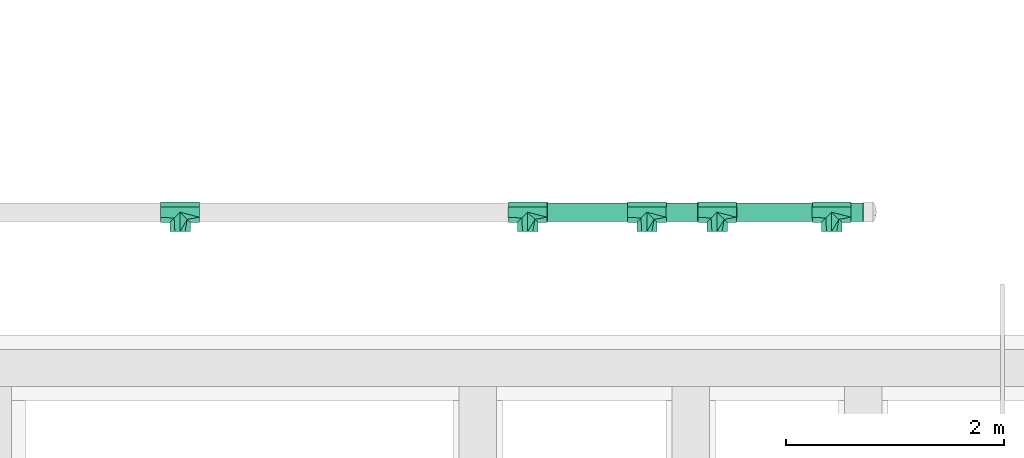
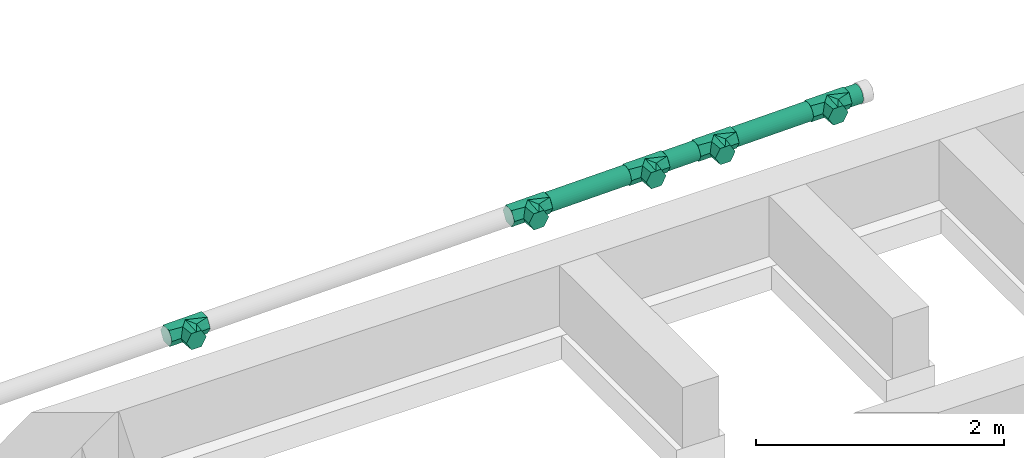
# One storey, part 6 of 8: 5 flow fittings, 4 flow segments.
"""IFC2X3 building model written with IfcOpenShell, lengths in millimetres."""

from ifc_helpers import new_model, entity, si_unit, converted_unit, derived_unit, direction, frame, frame_2d, origin, origin_2d_with_axis, place, context, subcontext, project, spatial, circle, extrude, faceted_brep, source, transform, mapped, type_object, type_shapes, element, save


model = new_model("IFC2X3")

# Units and contexts
model_context = context("Model", 3, precision=0.01, world=origin(), true_north=direction((6.12303176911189e-17, 1.0)))
body_context = subcontext(model_context, "Body", "Model", "MODEL_VIEW")
ifc_project = project(units=[si_unit("LENGTHUNIT", "METRE", prefix="MILLI"), si_unit("AREAUNIT", "SQUARE_METRE"), si_unit("VOLUMEUNIT", "CUBIC_METRE"), converted_unit("PLANEANGLEUNIT", "DEGREE", entity("IfcRatioMeasure", 0.0174532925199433), si_unit("PLANEANGLEUNIT", "RADIAN"), dimensions=[0, 0, 0, 0, 0, 0, 0]), si_unit("MASSUNIT", "GRAM", prefix="KILO"), derived_unit("MASSDENSITYUNIT", [(si_unit("MASSUNIT", "GRAM", prefix="KILO"), 1), (si_unit("LENGTHUNIT", "METRE"), -3)]), si_unit("TIMEUNIT", "SECOND"), si_unit("FREQUENCYUNIT", "HERTZ"), si_unit("THERMODYNAMICTEMPERATUREUNIT", "DEGREE_CELSIUS"), derived_unit("THERMALTRANSMITTANCEUNIT", [(si_unit("MASSUNIT", "GRAM", prefix="KILO"), 1), (si_unit("THERMODYNAMICTEMPERATUREUNIT", "KELVIN"), -1), (si_unit("TIMEUNIT", "SECOND"), -3)]), derived_unit("VOLUMETRICFLOWRATEUNIT", [(si_unit("LENGTHUNIT", "METRE"), 3), (si_unit("TIMEUNIT", "SECOND"), -1)]), si_unit("ELECTRICCURRENTUNIT", "AMPERE"), si_unit("ELECTRICVOLTAGEUNIT", "VOLT"), si_unit("POWERUNIT", "WATT"), si_unit("FORCEUNIT", "NEWTON", prefix="KILO"), si_unit("ILLUMINANCEUNIT", "LUX"), si_unit("LUMINOUSFLUXUNIT", "LUMEN"), si_unit("LUMINOUSINTENSITYUNIT", "CANDELA"), derived_unit("USERDEFINED", [(si_unit("MASSUNIT", "GRAM", prefix="KILO"), -1), (si_unit("LENGTHUNIT", "METRE"), -2), (si_unit("TIMEUNIT", "SECOND"), 3), (si_unit("LUMINOUSFLUXUNIT", "LUMEN"), 1)]), derived_unit("LINEARVELOCITYUNIT", [(si_unit("LENGTHUNIT", "METRE"), 1), (si_unit("TIMEUNIT", "SECOND"), -1)]), si_unit("PRESSUREUNIT", "PASCAL"), derived_unit("USERDEFINED", [(si_unit("LENGTHUNIT", "METRE"), -2), (si_unit("MASSUNIT", "GRAM", prefix="KILO"), 1), (si_unit("TIMEUNIT", "SECOND"), -2)])], contexts=[model_context])

# Site, building, storey
site_placement = place(None, origin())
site = spatial("IfcSite", under=ifc_project, at=site_placement, Name="Surface", CompositionType="ELEMENT")
building_placement = place(site_placement, origin())
building = spatial("IfcBuilding", under=site, at=building_placement, CompositionType="ELEMENT")
storey_placement = place(building_placement, frame((0.0, 0.0, -445.0)))
storey = spatial("IfcBuildingStorey", under=building, at=storey_placement, Name="T.O.F", CompositionType="ELEMENT", Elevation=-445.0)

# Flow segments
pipe_segment_type = type_object("IfcPipeSegmentType", Name="Pipe Types:PVC80", PredefinedType="NOTDEFINED")
flow_segment_1_placement = place(storey_placement, origin())
element("IfcFlowSegment", 1, at=flow_segment_1_placement, inside=storey, type_object=pipe_segment_type, Name="Pipe Types:PVC80", ObjectType="Pipe Types:PVC80", context=body_context, shape_type="SweptSolid", body=[
    extrude(circle(Radius=84.1375, at=frame_2d((0.0, -6.49590372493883e-14), x_axis=(1.0, 0.0))), frame((-1112.36480661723, 12081.3835294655, 19.2673565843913), z_axis=(0.999800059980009, 0.0, 0.0199960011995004), x_axis=(0.0, 1.0, 0.0)), (0.0, 0.0, 1.0), 110.282235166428),
])
flow_segment_2_placement = place(storey_placement, origin())
element("IfcFlowSegment", 2, at=flow_segment_2_placement, inside=storey, type_object=pipe_segment_type, Name="Pipe Types:PVC80", ObjectType="Pipe Types:PVC80", context=body_context, shape_type="SweptSolid", body=[
    extrude(circle(Radius=84.1375, at=origin_2d_with_axis()), frame((-3895.82853627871, 12081.3835294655, -36.4019180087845), z_axis=(0.999800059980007, 0.0, 0.0199960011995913), x_axis=(0.0, 1.0, 0.0)), (0.0, 0.0, 1.0), 735.760188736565),
])
flow_segment_3_placement = place(storey_placement, origin())
element("IfcFlowSegment", 3, at=flow_segment_3_placement, inside=storey, type_object=pipe_segment_type, Name="Pipe Types:PVC80", ObjectType="Pipe Types:PVC80", context=body_context, shape_type="SweptSolid", body=[
    extrude(circle(Radius=84.1375, at=frame_2d((0.0, -6.7665663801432e-14), x_axis=(1.0, 0.0))), frame((-2162.04139153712, 12081.3835294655, -1.72617511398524), z_axis=(0.999800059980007, 0.0, 0.0199960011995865), x_axis=(0.0, -1.0, 0.0)), (0.0, 0.0, 1.0), 694.286499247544),
])
flow_segment_4_placement = place(storey_placement, origin())
element("IfcFlowSegment", 4, at=flow_segment_4_placement, inside=storey, type_object=pipe_segment_type, Name="Pipe Types:PVC80", ObjectType="Pipe Types:PVC80", context=body_context, shape_type="SweptSolid", body=[
    extrude(circle(Radius=84.1375, at=frame_2d((0.0, -7.8492170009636e-14), x_axis=(1.0, 0.0))), frame((-2804.68655412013, 12081.3835294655, -14.5790783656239), z_axis=(0.999800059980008, 0.0, 0.0199960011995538), x_axis=(0.0, -1.0, 0.0)), (0.0, 0.0, 1.0), 287.173678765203),
])

# Flow fittings
pipe_fitting_type = type_object("IfcPipeFittingType", Name="Standard", PredefinedType="NOTDEFINED")
shared_shape = source(origin(), body_context, "Body", "Brep", [
    faceted_brep([(-177.799999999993, -69.6563250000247, -40.2160979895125), (-177.799999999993, -92.875100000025, 0.0), (-177.799999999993, -81.2657125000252, 20.1080489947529), (-177.799999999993, -69.6563250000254, 40.2160979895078), (-177.799999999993, -46.4375500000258, 80.4321959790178), (-177.799999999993, 0.0, 80.4321959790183), (-177.799999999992, 46.4375499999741, 80.4321959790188), (-177.799999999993, 69.6563249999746, 40.216097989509), (-177.799999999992, 92.8750999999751, 0.0), (-177.799999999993, 71.8936230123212, -36.3409841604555), (-177.799999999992, 46.4375499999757, -80.4321959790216), (-177.799999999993, 0.0, -80.432195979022), (-177.799999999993, -46.4375500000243, -80.4321959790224), (177.800000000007, 0.0, -80.432195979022), (177.800000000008, 46.4375499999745, -80.4321959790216), (177.800000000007, 69.6563249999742, -40.2160979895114), (177.800000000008, 92.8750999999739, 0.0), (177.800000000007, 69.6563249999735, 40.2160979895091), (177.800000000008, 46.437549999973, 80.4321959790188), (177.800000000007, 0.0, 80.4321959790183), (177.800000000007, -46.4375500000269, 80.4321959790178), (177.800000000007, -69.6563250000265, 40.2160979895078), (177.800000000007, -92.8751000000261, 0.0), (177.800000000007, -81.265712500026, -20.1080489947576), (177.800000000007, -69.6563250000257, -40.2160979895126), (177.800000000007, -46.4375500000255, -80.4321959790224), (79.3433889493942, -79.3433889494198, 32.7666265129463), (65.8116778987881, -65.8116778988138, 65.5332530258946), (0.0, 0.0, 92.8750999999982), (-53.8682307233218, -53.8682307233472, 75.6571075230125), (92.8751000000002, -92.8751000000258, 0.0), (-92.8750999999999, -92.8751000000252, 0.0), (-73.6171930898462, -73.6171930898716, 37.3523320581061), (-73.3716653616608, -73.3716653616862, 37.8285537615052), (0.0, 0.0, -92.8751000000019), (73.6171930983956, -73.6171930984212, -37.3523320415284), (73.3716653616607, -73.3716653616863, -37.8285537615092), (53.8682307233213, -53.8682307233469, -75.6571075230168), (-79.3433889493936, -79.343388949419, -32.7666265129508), (-65.8116778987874, -65.8116778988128, -65.5332530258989), (46.4375500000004, -177.800000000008, -80.432195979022), (71.8936222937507, -177.800000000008, -36.3409854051), (92.8751000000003, -177.800000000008, 0.0), (69.6563249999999, -177.800000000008, 40.2160979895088), (46.4375499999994, -177.800000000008, 80.4321959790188), (0.0, -177.800000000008, 80.4321959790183), (-46.4375500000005, -177.800000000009, 80.4321959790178), (-71.8936220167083, -177.800000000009, 36.340985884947), (-92.8750999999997, -177.800000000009, 0.0), (-69.6563249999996, -177.800000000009, -40.2160979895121), (-46.4375499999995, -177.800000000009, -80.4321959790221), (0.0, -177.800000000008, -80.432195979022)], [[[0, 1, 2, 3, 4, 5, 6, 7, 8, 9, 10, 11, 12]], [[13, 14, 15, 16, 17, 18, 19, 20, 21, 22, 23, 24, 25]], [[21, 26, 22]], [[27, 21, 20]], [[28, 20, 19, 18]], [[3, 29, 4]], [[22, 26, 30]], [[1, 31, 2]], [[21, 27, 26]], [[20, 28, 27]], [[8, 7, 6, 18, 17, 16]], [[4, 28, 6, 5]], [[4, 29, 28]], [[32, 3, 2]], [[6, 28, 18]], [[3, 32, 33, 29]], [[31, 32, 2]], [[10, 9, 8, 16, 15, 14]], [[34, 14, 13, 25]], [[10, 14, 34]], [[10, 34, 12, 11]], [[35, 24, 23]], [[24, 35, 36, 37]], [[1, 38, 31]], [[30, 23, 22]], [[30, 35, 23]], [[37, 25, 24]], [[39, 12, 34]], [[0, 38, 1]], [[0, 39, 38]], [[39, 0, 12]], [[25, 37, 34]], [[40, 41, 42, 43, 44, 45, 46, 47, 48, 49, 50, 51]], [[33, 46, 29]], [[31, 48, 47]], [[46, 33, 47]], [[47, 33, 32, 31]], [[29, 46, 45]], [[30, 43, 42]], [[45, 27, 28]], [[27, 44, 43]], [[29, 45, 28]], [[43, 30, 26, 27]], [[45, 44, 27]], [[36, 40, 37]], [[30, 42, 41]], [[40, 36, 41]], [[41, 36, 35, 30]], [[37, 40, 51]], [[31, 49, 48]], [[51, 39, 34]], [[39, 50, 49]], [[37, 51, 34]], [[49, 31, 38, 39]], [[51, 50, 39]]]),
])
type_shapes(pipe_fitting_type, [shared_shape])
for number, where, z_axis, x_axis, name in (
    (5, (-1290.12925728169, 12081.3835294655, 15.7120675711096), (-0.0199960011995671, 0.0, 0.999800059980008), (0.999800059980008, 0.0, 0.0199960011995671), "M_Tee - PVC - Sch 40:Standard"),
    (6, (-2982.45100478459, 12081.3835294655, -18.1343673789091), (-0.0199960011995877, 0.0, 0.999800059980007), (0.999800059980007, 0.0, 0.0199960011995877), "M_Tee - PVC - Sch 40:Standard"),
    (7, (-4073.59298694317, 12081.3835294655, -39.9572070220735), (-0.0199960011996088, 0.0, 0.999800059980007), (0.999800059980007, 0.0, 0.0199960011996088), "M_Tee - PVC - Sch 40:Standard"),
    (8, (-7257.42092415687, 12081.3835294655, -103.633765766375), (-0.0199960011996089, 0.0, 0.999800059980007), (0.999800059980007, 0.0, 0.0199960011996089), "M_Tee - PVC - Sch 40:Standard"),
    (9, (-2339.80584220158, 12081.3835294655, -5.28146412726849), (-0.0199960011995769, 0.0, 0.999800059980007), (0.999800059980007, 0.0, 0.0199960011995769), "M_Tee - PVC - Sch 40:Standard"),
):
    element("IfcFlowFitting", number, at=place(storey_placement, frame(where, z_axis=z_axis, x_axis=x_axis)), inside=storey, type_object=pipe_fitting_type, Name=name, ObjectType="Standard", context=body_context, shape_type="MappedRepresentation", body=[
        mapped(shared_shape, transform((0.0, 0.0, 0.0), scale=1.0)),
    ])

save(model, "model.ifc")
